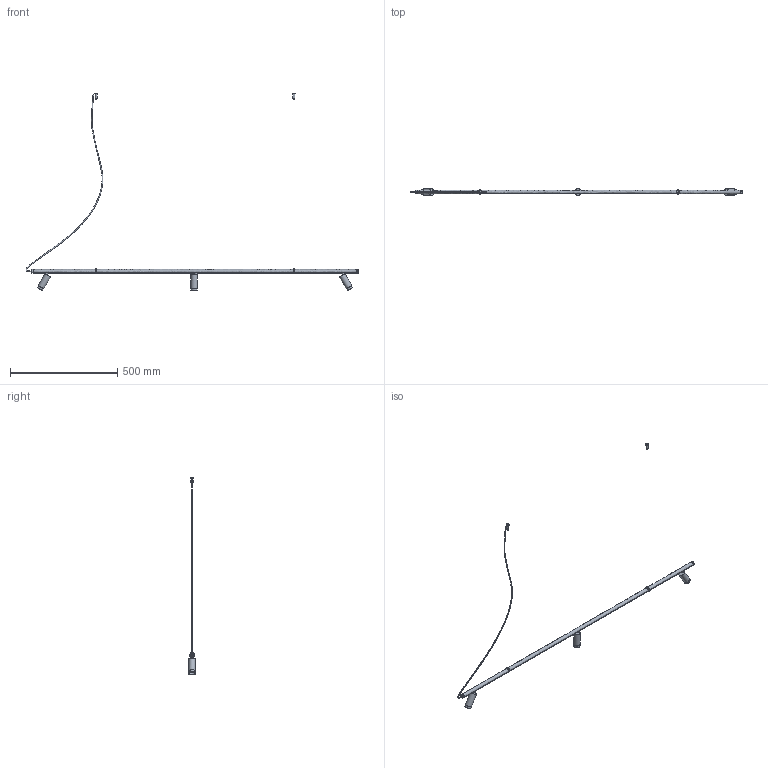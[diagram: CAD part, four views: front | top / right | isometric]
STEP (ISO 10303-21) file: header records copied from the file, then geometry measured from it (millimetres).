
FILE_DESCRIPTION(/* description */ (''),/* implementation_level */ '2;1');
FILE_NAME(/* name */ '1678',/* time_stamp */ '2021-11-26T11:08:57+01:00',/* author */ (''),/* organization */ (''),/* preprocessor_version */ 'ST-DEVELOPER v16.5',/* originating_system */ '',/* authorisation */ '');
FILE_SCHEMA (('CONFIG_CONTROL_DESIGN'));
Length unit declared in the file: millimetre
Products named in the file (1): Document
Bounding box: 1547.78 x 30 x 919.92 mm (x, y, z)
Volume: 118581.9 mm3; surface area: 210031.4 mm2
Topology: 11 solids, 23 shells, 84 faces, 155 edges, 102 vertices
Faces by surface type: plane 43, cylinder 33, bspline 8
Full cylindrical faces by diameter (mm): 0.8 x2, 5 x2, 10 x5, 15 x2, 18.053 x2, 30 x3
Entity records: 3555 total; most frequent: CARTESIAN_POINT 2304, ORIENTED_EDGE 321, EDGE_CURVE 168, VERTEX_POINT 115, ADVANCED_FACE 84, FACE_OUTER_BOUND 84, EDGE_LOOP 84, DIRECTION 82
